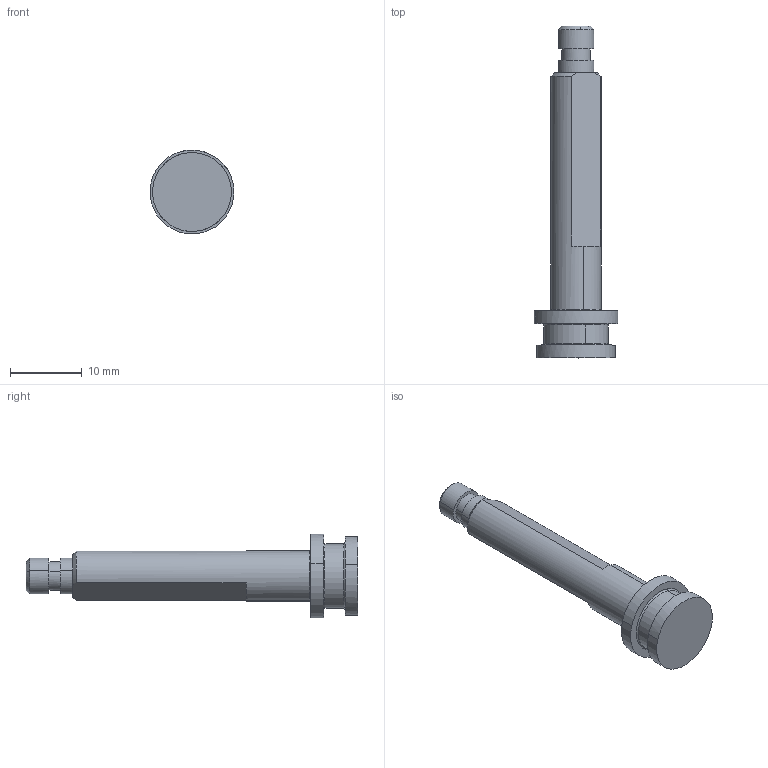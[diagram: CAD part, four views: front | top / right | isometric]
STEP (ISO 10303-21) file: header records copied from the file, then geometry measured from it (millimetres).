
FILE_DESCRIPTION(('CATIA V5 STEP Exchange'),'2;1');
FILE_NAME('C:\Users\Administrator\Desktop\座椅主动阻尼控制系统样件采购申请-\数模\573.4601.05_V1（BPC0010039）.stp','2021-01-28T05:06:05+00:00',('none'),('none'),'CATIA Version 5 Release 21 GA (IN-10)','CATIA V5 STEP AP214','none');
FILE_SCHEMA(('AUTOMOTIVE_DESIGN { 1 0 10303 214 1 1 1 1 }'));
Length unit declared in the file: millimetre
Products named in the file (1): 573.4601.05_V1
Bounding box: 11.69 x 46.3 x 11.68 mm (x, y, z)
Volume: 1807.2 mm3; surface area: 1294.8 mm2
Topology: 1 solids, 1 shells, 42 faces, 93 edges, 59 vertices
Faces by surface type: cylinder 18, plane 12, cone 6, torus 6
Entity records: 1585 total; most frequent: CARTESIAN_POINT 451, ORIENTED_EDGE 186, DIRECTION 148, EDGE_CURVE 93, AXIS2_PLACEMENT_3D 83, VERTEX_POINT 59, EDGE_LOOP 48, ADVANCED_FACE 42
